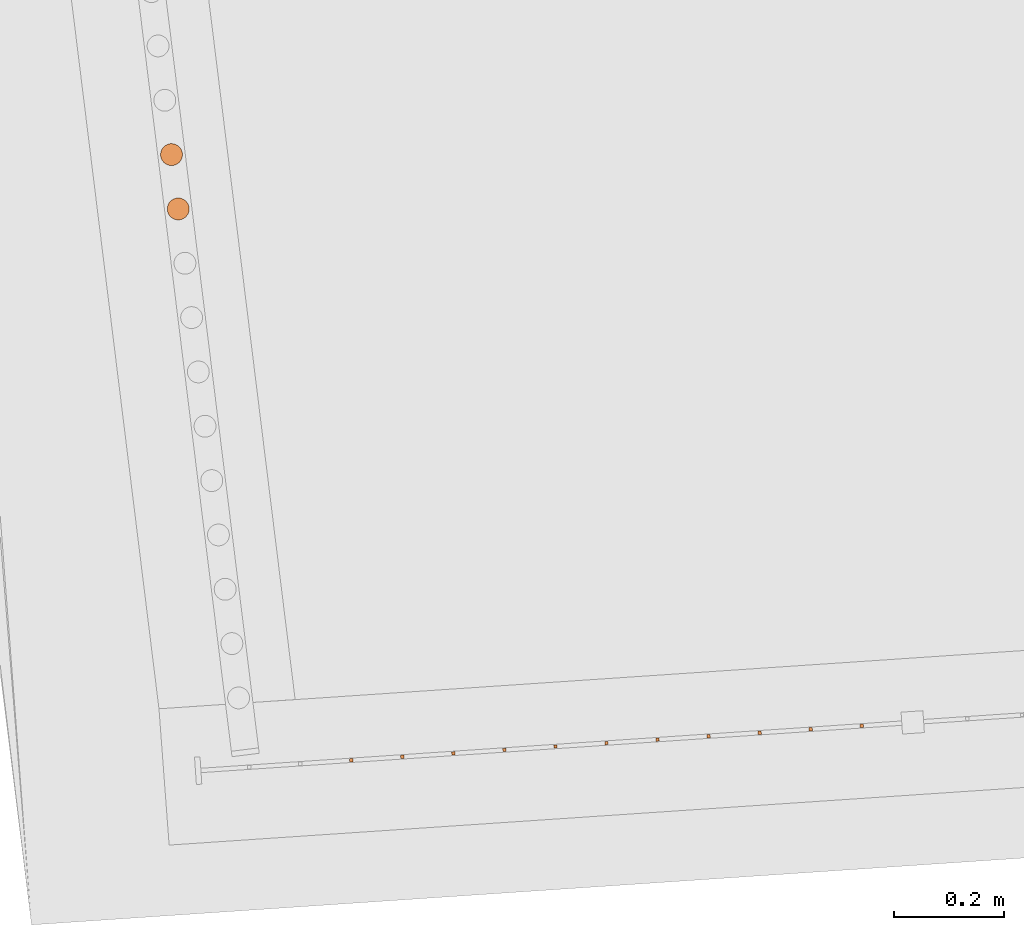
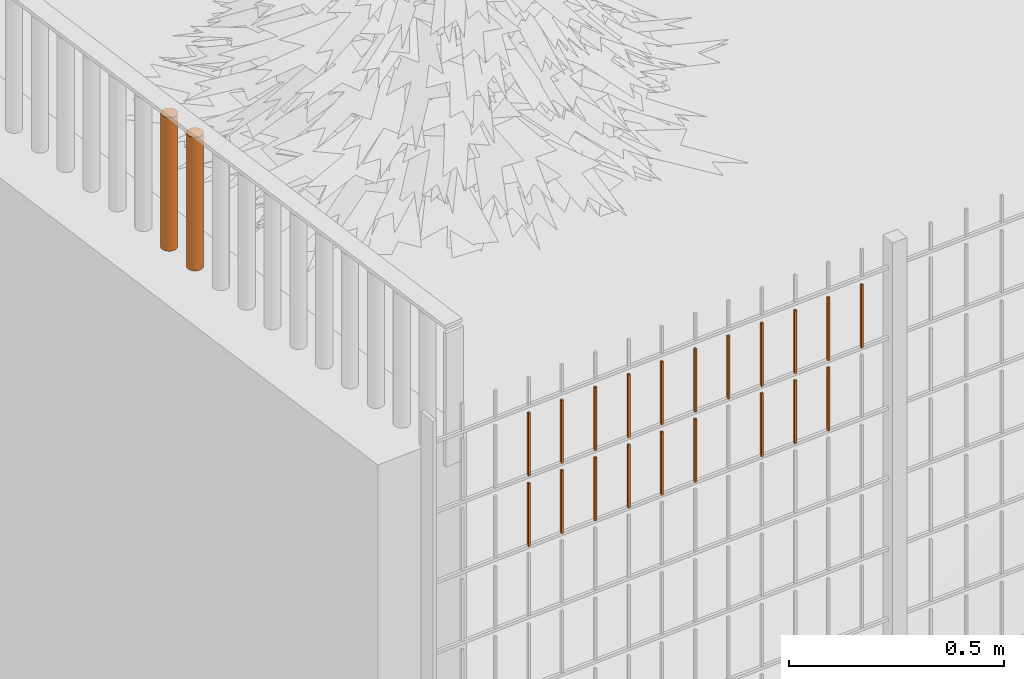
# One storey, part 56 of 1809: 22 proxies, 2 elements without a shape of their own.
"""IFC2X3 building model written with IfcOpenShell, lengths in millimetres."""

from ifc_helpers import new_model, entity, si_unit, converted_unit, derived_unit, money_unit, direction, frame, origin_with_axes, place, context, subcontext, project, spatial, faceted_brep, source, transform, mapped, material, type_object, element, aggregate, save


model = new_model("IFC2X3")

# Units and contexts
model_context = context("Model", 3, precision=0.01, world=origin_with_axes(), true_north=direction((0.0, 1.0)))
body_context = subcontext(model_context, "Body", "Model", "MODEL_VIEW")
ifc_project = project(units=[si_unit("LENGTHUNIT", "METRE", prefix="MILLI"), si_unit("AREAUNIT", "SQUARE_METRE"), si_unit("VOLUMEUNIT", "CUBIC_METRE"), converted_unit("PLANEANGLEUNIT", "DEGREE", entity("IfcPlaneAngleMeasure", 0.0174532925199), si_unit("PLANEANGLEUNIT", "RADIAN"), dimensions=[0, 0, 0, 0, 0, 0, 0]), si_unit("SOLIDANGLEUNIT", "STERADIAN"), money_unit("EUR"), converted_unit("TIMEUNIT", "Year", entity("IfcTimeMeasure", 31556926.0), si_unit("TIMEUNIT", "SECOND"), dimensions=[0, 0, 1, 0, 0, 0, 0]), si_unit("MASSUNIT", "GRAM", prefix="KILO"), si_unit("THERMODYNAMICTEMPERATUREUNIT", "DEGREE_CELSIUS"), si_unit("LUMINOUSINTENSITYUNIT", "LUMEN"), si_unit("ENERGYUNIT", "JOULE", prefix="MEGA"), derived_unit("THERMALCONDUCTANCEUNIT", [(si_unit("POWERUNIT", "WATT"), 1), (si_unit("LENGTHUNIT", "METRE"), -1), (si_unit("THERMODYNAMICTEMPERATUREUNIT", "KELVIN"), -1)]), derived_unit("SPECIFICHEATCAPACITYUNIT", [(si_unit("ENERGYUNIT", "JOULE"), 1), (si_unit("MASSUNIT", "GRAM", prefix="KILO"), -1), (si_unit("THERMODYNAMICTEMPERATUREUNIT", "KELVIN"), -1)]), derived_unit("MASSDENSITYUNIT", [(si_unit("MASSUNIT", "GRAM", prefix="KILO"), 1), (si_unit("VOLUMEUNIT", "CUBIC_METRE"), -1)])], contexts=[model_context])

# Site, building, storey
site_placement = place(None, origin_with_axes())
site = spatial("IfcSite", under=ifc_project, at=site_placement, Name="Politse- ja Piirivalveameti ning Päästeameti ühishoone", CompositionType="ELEMENT")
building_placement = place(site_placement, origin_with_axes())
building = spatial("IfcBuilding", under=site, at=building_placement, Name="Politse- ja Piirivalveameti ning Päästeameti ühishoone", CompositionType="ELEMENT")
storey_placement = place(building_placement, origin_with_axes())
storey = spatial("IfcBuildingStorey", under=building, at=storey_placement, Name="Esimene korrus", CompositionType="ELEMENT", Elevation=0.0)

# Proxies
building_element_proxy_type_1 = type_object("IfcBuildingElementProxyType", Name="Railing Type", PredefinedType="NOTDEFINED")
proxy_1_placement = place(storey_placement, frame((89252.001212, -29183.4766571, 203.661247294), z_axis=(0.0, 0.0, 1.0), x_axis=(1.0, 0.0, 0.0)))
proxy_1 = element("IfcBuildingElementProxy", 1, at=proxy_1_placement, inside=storey, type_object=building_element_proxy_type_1, Name="PIIRDEAED")
ifc_material_1 = material(Name="ET-03_Raud")
building_element_proxy_type_2 = type_object("IfcBuildingElementProxyType", Name="IfcBuildingElementProxy", PredefinedType="NOTDEFINED")
shared_shape_1 = source(origin_with_axes(), body_context, "Body", "Brep", [
    faceted_brep([(3.0, 3.0, -0.000752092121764), (-3.0, 3.0, -0.000752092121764), (-3.0, 3.0, 179.99926046), (3.0, 3.0, 179.99926046), (3.0, -3.0, 0.000752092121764), (-3.0, -3.0, 0.000752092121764), (-3.0, -3.0, 180.000764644), (3.0, -3.0, 180.000764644)], [[[0, 1, 2, 3]], [[0, 4, 5, 1]], [[1, 5, 6, 2]], [[3, 2, 6, 7]], [[4, 0, 3, 7]], [[5, 4, 7, 6]]]),
])
proxy_2_placement = place(proxy_1_placement, frame((-108014.752026, -24593.763628, 1800.09366723), z_axis=(0.0, 0.0, 1.0), x_axis=(1.0, 0.0, 0.0)))
proxy_2 = element("IfcBuildingElementProxy", 2, at=proxy_2_placement, type_object=building_element_proxy_type_2, material=ifc_material_1, Name="BALUSTER - 001", context=body_context, shape_type="MappedRepresentation", body=[
    mapped(shared_shape_1, transform((0.0, 0.0, 0.0), x_axis=(-0.0673926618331, 0.997726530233, 0.0), y_axis=(-0.997726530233, -0.0673926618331, 0.0), z_axis=(0.0, 0.0, 1.0))),
])
shared_shape_2 = source(origin_with_axes(), body_context, "Body", "Brep", [
    faceted_brep([(3.0, 3.0, -0.000752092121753), (-3.0, 3.0, -0.000752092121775), (-3.0, 3.0, 179.99926046), (3.0, 3.0, 179.99926046), (3.0, -3.0, 0.000752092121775), (-3.0, -3.0, 0.000752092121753), (-3.0, -3.0, 180.000764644), (3.0, -3.0, 180.000764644)], [[[0, 1, 2, 3]], [[0, 4, 5, 1]], [[1, 5, 6, 2]], [[3, 2, 6, 7]], [[4, 0, 3, 7]], [[5, 4, 7, 6]]]),
])
proxy_3_placement = place(proxy_1_placement, frame((-107641.924811, -24568.5805566, 1600.18734701), z_axis=(0.0, 0.0, 1.0), x_axis=(1.0, 0.0, 0.0)))
proxy_3 = element("IfcBuildingElementProxy", 3, at=proxy_3_placement, type_object=building_element_proxy_type_2, material=ifc_material_1, Name="BALUSTER - 001", context=body_context, shape_type="MappedRepresentation", body=[
    mapped(shared_shape_2, transform((0.0, 0.0, 0.0), x_axis=(-0.0673926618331, 0.997726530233, 0.0), y_axis=(-0.997726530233, -0.0673926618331, 0.0), z_axis=(0.0, 0.0, 1.0))),
])
shared_shape_3 = source(origin_with_axes(), body_context, "Body", "Brep", [
    faceted_brep([(3.0, 3.0, -0.000752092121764), (-3.0, 3.0, -0.000752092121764), (-3.0, 3.0, 179.99926046), (3.0, 3.0, 179.99926046), (3.0, -3.0, 0.000752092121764), (-3.0, -3.0, 0.000752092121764), (-3.0, -3.0, 180.000764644), (3.0, -3.0, 180.000764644)], [[[0, 1, 2, 3]], [[0, 4, 5, 1]], [[1, 5, 6, 2]], [[3, 2, 6, 7]], [[4, 0, 3, 7]], [[5, 4, 7, 6]]]),
])
proxy_4_placement = place(proxy_1_placement, frame((-108014.752026, -24593.763628, 1600.09366723), z_axis=(0.0, 0.0, 1.0), x_axis=(1.0, 0.0, 0.0)))
proxy_4 = element("IfcBuildingElementProxy", 4, at=proxy_4_placement, type_object=building_element_proxy_type_2, material=ifc_material_1, Name="BALUSTER - 001", context=body_context, shape_type="MappedRepresentation", body=[
    mapped(shared_shape_3, transform((0.0, 0.0, 0.0), x_axis=(-0.0673926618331, 0.997726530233, 0.0), y_axis=(-0.997726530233, -0.0673926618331, 0.0), z_axis=(0.0, 0.0, 1.0))),
])
shared_shape_4 = source(origin_with_axes(), body_context, "Body", "Brep", [
    faceted_brep([(3.0, 3.0, -0.000752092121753), (-3.0, 3.0, -0.000752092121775), (-3.0, 3.0, 179.99926046), (3.0, 3.0, 179.99926046), (3.0, -3.0, 0.000752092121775), (-3.0, -3.0, 0.000752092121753), (-3.0, -3.0, 180.000764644), (3.0, -3.0, 180.000764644)], [[[0, 1, 2, 3]], [[0, 4, 5, 1]], [[1, 5, 6, 2]], [[3, 2, 6, 7]], [[4, 0, 3, 7]], [[5, 4, 7, 6]]]),
])
proxy_5_placement = place(proxy_1_placement, frame((-107641.924811, -24568.5805566, 1800.18734701), z_axis=(0.0, 0.0, 1.0), x_axis=(1.0, 0.0, 0.0)))
proxy_5 = element("IfcBuildingElementProxy", 5, at=proxy_5_placement, type_object=building_element_proxy_type_2, material=ifc_material_1, Name="BALUSTER - 001", context=body_context, shape_type="MappedRepresentation", body=[
    mapped(shared_shape_4, transform((0.0, 0.0, 0.0), x_axis=(-0.0673926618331, 0.997726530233, 0.0), y_axis=(-0.997726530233, -0.0673926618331, 0.0), z_axis=(0.0, 0.0, 1.0))),
])
shared_shape_5 = source(origin_with_axes(), body_context, "Body", "Brep", [
    faceted_brep([(3.0, 3.0, -0.000752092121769), (-3.0, 3.0, -0.000752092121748), (-3.0, 3.0, 179.99926046), (3.0, 3.0, 179.99926046), (3.0, -3.0, 0.000752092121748), (-3.0, -3.0, 0.000752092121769), (-3.0, -3.0, 180.000764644), (3.0, -3.0, 180.000764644)], [[[0, 1, 2, 3]], [[0, 4, 5, 1]], [[1, 5, 6, 2]], [[3, 2, 6, 7]], [[4, 0, 3, 7]], [[5, 4, 7, 6]]]),
])
proxy_6_placement = place(proxy_1_placement, frame((-107362.3044, -24549.6932531, 1800.25760685), z_axis=(0.0, 0.0, 1.0), x_axis=(1.0, 0.0, 0.0)))
proxy_6 = element("IfcBuildingElementProxy", 6, at=proxy_6_placement, type_object=building_element_proxy_type_2, material=ifc_material_1, Name="BALUSTER - 001", context=body_context, shape_type="MappedRepresentation", body=[
    mapped(shared_shape_5, transform((0.0, 0.0, 0.0), x_axis=(-0.0673926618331, 0.997726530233, 0.0), y_axis=(-0.997726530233, -0.0673926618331, 0.0), z_axis=(0.0, 0.0, 1.0))),
])
shared_shape_6 = source(origin_with_axes(), body_context, "Body", "Brep", [
    faceted_brep([(3.0, 3.0, -0.000752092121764), (-3.0, 3.0, -0.000752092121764), (-3.0, 3.0, 179.99926046), (3.0, 3.0, 179.99926046), (3.0, -3.0, 0.000752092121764), (-3.0, -3.0, 0.000752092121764), (-3.0, -3.0, 180.000764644), (3.0, -3.0, 180.000764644)], [[[0, 1, 2, 3]], [[0, 4, 5, 1]], [[1, 5, 6, 2]], [[3, 2, 6, 7]], [[4, 0, 3, 7]], [[5, 4, 7, 6]]]),
])
proxy_7_placement = place(proxy_1_placement, frame((-107269.097597, -24543.3974853, 1800.28102679), z_axis=(0.0, 0.0, 1.0), x_axis=(1.0, 0.0, 0.0)))
proxy_7 = element("IfcBuildingElementProxy", 7, at=proxy_7_placement, type_object=building_element_proxy_type_2, material=ifc_material_1, Name="BALUSTER - 001", context=body_context, shape_type="MappedRepresentation", body=[
    mapped(shared_shape_6, transform((0.0, 0.0, 0.0), x_axis=(-0.0673926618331, 0.997726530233, 0.0), y_axis=(-0.997726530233, -0.0673926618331, 0.0), z_axis=(0.0, 0.0, 1.0))),
])
shared_shape_7 = source(origin_with_axes(), body_context, "Body", "Brep", [
    faceted_brep([(3.0, 3.0, -0.000752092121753), (-3.0, 3.0, -0.000752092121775), (-3.0, 3.0, 179.99926046), (3.0, 3.0, 179.99926046), (3.0, -3.0, 0.000752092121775), (-3.0, -3.0, 0.000752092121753), (-3.0, -3.0, 180.000764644), (3.0, -3.0, 180.000764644)], [[[0, 1, 2, 3]], [[0, 4, 5, 1]], [[1, 5, 6, 2]], [[3, 2, 6, 7]], [[4, 0, 3, 7]], [[5, 4, 7, 6]]]),
])
proxy_8_placement = place(proxy_1_placement, frame((-107828.338419, -24581.1720923, 1800.14050712), z_axis=(0.0, 0.0, 1.0), x_axis=(1.0, 0.0, 0.0)))
proxy_8 = element("IfcBuildingElementProxy", 8, at=proxy_8_placement, type_object=building_element_proxy_type_2, material=ifc_material_1, Name="BALUSTER - 001", context=body_context, shape_type="MappedRepresentation", body=[
    mapped(shared_shape_7, transform((0.0, 0.0, 0.0), x_axis=(-0.0673926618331, 0.997726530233, 0.0), y_axis=(-0.997726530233, -0.0673926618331, 0.0), z_axis=(0.0, 0.0, 1.0))),
])
shared_shape_8 = source(origin_with_axes(), body_context, "Body", "Brep", [
    faceted_brep([(3.0, 3.0, -0.000752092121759), (-3.0, 3.0, -0.000752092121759), (-3.0, 3.0, 179.99926046), (3.0, 3.0, 179.99926046), (3.0, -3.0, 0.000752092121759), (-3.0, -3.0, 0.000752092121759), (-3.0, -3.0, 180.000764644), (3.0, -3.0, 180.000764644)], [[[0, 1, 2, 3]], [[0, 4, 5, 1]], [[1, 5, 6, 2]], [[3, 2, 6, 7]], [[4, 0, 3, 7]], [[5, 4, 7, 6]]]),
])
proxy_9_placement = place(proxy_1_placement, frame((-107735.131615, -24574.8763245, 1800.16392707), z_axis=(0.0, 0.0, 1.0), x_axis=(1.0, 0.0, 0.0)))
proxy_9 = element("IfcBuildingElementProxy", 9, at=proxy_9_placement, type_object=building_element_proxy_type_2, material=ifc_material_1, Name="BALUSTER - 001", context=body_context, shape_type="MappedRepresentation", body=[
    mapped(shared_shape_8, transform((0.0, 0.0, 0.0), x_axis=(-0.0673926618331, 0.997726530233, 0.0), y_axis=(-0.997726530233, -0.0673926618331, 0.0), z_axis=(0.0, 0.0, 1.0))),
])
shared_shape_9 = source(origin_with_axes(), body_context, "Body", "Brep", [
    faceted_brep([(3.0, 3.0, -0.000752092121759), (-3.0, 3.0, -0.000752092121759), (-3.0, 3.0, 179.99926046), (3.0, 3.0, 179.99926046), (3.0, -3.0, 0.000752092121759), (-3.0, -3.0, 0.000752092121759), (-3.0, -3.0, 180.000764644), (3.0, -3.0, 180.000764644)], [[[0, 1, 2, 3]], [[0, 4, 5, 1]], [[1, 5, 6, 2]], [[3, 2, 6, 7]], [[4, 0, 3, 7]], [[5, 4, 7, 6]]]),
])
proxy_10_placement = place(proxy_1_placement, frame((-108107.95883, -24600.0593958, 1800.07024728), z_axis=(0.0, 0.0, 1.0), x_axis=(1.0, 0.0, 0.0)))
proxy_10 = element("IfcBuildingElementProxy", 10, at=proxy_10_placement, type_object=building_element_proxy_type_2, material=ifc_material_1, Name="BALUSTER - 001", context=body_context, shape_type="MappedRepresentation", body=[
    mapped(shared_shape_9, transform((0.0, 0.0, 0.0), x_axis=(-0.0673926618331, 0.997726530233, 0.0), y_axis=(-0.997726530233, -0.0673926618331, 0.0), z_axis=(0.0, 0.0, 1.0))),
])
shared_shape_10 = source(origin_with_axes(), body_context, "Body", "Brep", [
    faceted_brep([(3.0, 3.0, -0.000752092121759), (-3.0, 3.0, -0.000752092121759), (-3.0, 3.0, 179.99926046), (3.0, 3.0, 179.99926046), (3.0, -3.0, 0.000752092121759), (-3.0, -3.0, 0.000752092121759), (-3.0, -3.0, 180.000764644), (3.0, -3.0, 180.000764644)], [[[0, 1, 2, 3]], [[0, 4, 5, 1]], [[1, 5, 6, 2]], [[3, 2, 6, 7]], [[4, 0, 3, 7]], [[5, 4, 7, 6]]]),
])
proxy_11_placement = place(proxy_1_placement, frame((-107455.511204, -24555.989021, 1800.2341869), z_axis=(0.0, 0.0, 1.0), x_axis=(1.0, 0.0, 0.0)))
proxy_11 = element("IfcBuildingElementProxy", 11, at=proxy_11_placement, type_object=building_element_proxy_type_2, material=ifc_material_1, Name="BALUSTER - 001", context=body_context, shape_type="MappedRepresentation", body=[
    mapped(shared_shape_10, transform((0.0, 0.0, 0.0), x_axis=(-0.0673926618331, 0.997726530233, 0.0), y_axis=(-0.997726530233, -0.0673926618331, 0.0), z_axis=(0.0, 0.0, 1.0))),
])
shared_shape_11 = source(origin_with_axes(), body_context, "Body", "Brep", [
    faceted_brep([(3.0, 3.0, -0.000752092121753), (-3.0, 3.0, -0.000752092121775), (-3.0, 3.0, 179.99926046), (3.0, 3.0, 179.99926046), (3.0, -3.0, 0.000752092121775), (-3.0, -3.0, 0.000752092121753), (-3.0, -3.0, 180.000764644), (3.0, -3.0, 180.000764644)], [[[0, 1, 2, 3]], [[0, 4, 5, 1]], [[1, 5, 6, 2]], [[3, 2, 6, 7]], [[4, 0, 3, 7]], [[5, 4, 7, 6]]]),
])
proxy_12_placement = place(proxy_1_placement, frame((-107921.545222, -24587.4678602, 1800.11708718), z_axis=(0.0, 0.0, 1.0), x_axis=(1.0, 0.0, 0.0)))
proxy_12 = element("IfcBuildingElementProxy", 12, at=proxy_12_placement, type_object=building_element_proxy_type_2, material=ifc_material_1, Name="BALUSTER - 001", context=body_context, shape_type="MappedRepresentation", body=[
    mapped(shared_shape_11, transform((0.0, 0.0, 0.0), x_axis=(-0.0673926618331, 0.997726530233, 0.0), y_axis=(-0.997726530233, -0.0673926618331, 0.0), z_axis=(0.0, 0.0, 1.0))),
])
shared_shape_12 = source(origin_with_axes(), body_context, "Body", "Brep", [
    faceted_brep([(3.0, 3.0, -0.000752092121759), (-3.0, 3.0, -0.000752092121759), (-3.0, 3.0, 179.99926046), (3.0, 3.0, 179.99926046), (3.0, -3.0, 0.000752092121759), (-3.0, -3.0, 0.000752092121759), (-3.0, -3.0, 180.000764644), (3.0, -3.0, 180.000764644)], [[[0, 1, 2, 3]], [[0, 4, 5, 1]], [[1, 5, 6, 2]], [[3, 2, 6, 7]], [[4, 0, 3, 7]], [[5, 4, 7, 6]]]),
])
proxy_13_placement = place(proxy_1_placement, frame((-108107.95883, -24600.0593958, 1600.07024728), z_axis=(0.0, 0.0, 1.0), x_axis=(1.0, 0.0, 0.0)))
proxy_13 = element("IfcBuildingElementProxy", 13, at=proxy_13_placement, type_object=building_element_proxy_type_2, material=ifc_material_1, Name="BALUSTER - 001", context=body_context, shape_type="MappedRepresentation", body=[
    mapped(shared_shape_12, transform((0.0, 0.0, 0.0), x_axis=(-0.0673926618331, 0.997726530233, 0.0), y_axis=(-0.997726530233, -0.0673926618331, 0.0), z_axis=(0.0, 0.0, 1.0))),
])
shared_shape_13 = source(origin_with_axes(), body_context, "Body", "Brep", [
    faceted_brep([(3.0, 3.0, -0.000752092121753), (-3.0, 3.0, -0.000752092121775), (-3.0, 3.0, 179.99926046), (3.0, 3.0, 179.99926046), (3.0, -3.0, 0.000752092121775), (-3.0, -3.0, 0.000752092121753), (-3.0, -3.0, 180.000764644), (3.0, -3.0, 180.000764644)], [[[0, 1, 2, 3]], [[0, 4, 5, 1]], [[1, 5, 6, 2]], [[3, 2, 6, 7]], [[4, 0, 3, 7]], [[5, 4, 7, 6]]]),
])
proxy_14_placement = place(proxy_1_placement, frame((-107175.890793, -24537.1017174, 1800.30444674), z_axis=(0.0, 0.0, 1.0), x_axis=(1.0, 0.0, 0.0)))
proxy_14 = element("IfcBuildingElementProxy", 14, at=proxy_14_placement, type_object=building_element_proxy_type_2, material=ifc_material_1, Name="BALUSTER - 001", context=body_context, shape_type="MappedRepresentation", body=[
    mapped(shared_shape_13, transform((0.0, 0.0, 0.0), x_axis=(-0.0673926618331, 0.997726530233, 0.0), y_axis=(-0.997726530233, -0.0673926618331, 0.0), z_axis=(0.0, 0.0, 1.0))),
])
shared_shape_14 = source(origin_with_axes(), body_context, "Body", "Brep", [
    faceted_brep([(3.0, 3.0, -0.000752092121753), (-3.0, 3.0, -0.000752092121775), (-3.0, 3.0, 179.99926046), (3.0, 3.0, 179.99926046), (3.0, -3.0, 0.000752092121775), (-3.0, -3.0, 0.000752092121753), (-3.0, -3.0, 180.000764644), (3.0, -3.0, 180.000764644)], [[[0, 1, 2, 3]], [[0, 4, 5, 1]], [[1, 5, 6, 2]], [[3, 2, 6, 7]], [[4, 0, 3, 7]], [[5, 4, 7, 6]]]),
])
proxy_15_placement = place(proxy_1_placement, frame((-107548.718008, -24562.2847888, 1800.21076696), z_axis=(0.0, 0.0, 1.0), x_axis=(1.0, 0.0, 0.0)))
proxy_15 = element("IfcBuildingElementProxy", 15, at=proxy_15_placement, type_object=building_element_proxy_type_2, material=ifc_material_1, Name="BALUSTER - 001", context=body_context, shape_type="MappedRepresentation", body=[
    mapped(shared_shape_14, transform((0.0, 0.0, 0.0), x_axis=(-0.0673926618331, 0.997726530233, 0.0), y_axis=(-0.997726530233, -0.0673926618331, 0.0), z_axis=(0.0, 0.0, 1.0))),
])
shared_shape_15 = source(origin_with_axes(), body_context, "Body", "Brep", [
    faceted_brep([(3.0, 3.0, -0.000752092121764), (-3.0, 3.0, -0.000752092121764), (-3.0, 3.0, 179.99926046), (3.0, 3.0, 179.99926046), (3.0, -3.0, 0.000752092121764), (-3.0, -3.0, 0.000752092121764), (-3.0, -3.0, 180.000764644), (3.0, -3.0, 180.000764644)], [[[0, 1, 2, 3]], [[0, 4, 5, 1]], [[1, 5, 6, 2]], [[3, 2, 6, 7]], [[4, 0, 3, 7]], [[5, 4, 7, 6]]]),
])
proxy_16_placement = place(proxy_1_placement, frame((-107269.097597, -24543.3974853, 1600.28102679), z_axis=(0.0, 0.0, 1.0), x_axis=(1.0, 0.0, 0.0)))
proxy_16 = element("IfcBuildingElementProxy", 16, at=proxy_16_placement, type_object=building_element_proxy_type_2, material=ifc_material_1, Name="BALUSTER - 001", context=body_context, shape_type="MappedRepresentation", body=[
    mapped(shared_shape_15, transform((0.0, 0.0, 0.0), x_axis=(-0.0673926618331, 0.997726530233, 0.0), y_axis=(-0.997726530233, -0.0673926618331, 0.0), z_axis=(0.0, 0.0, 1.0))),
])
shared_shape_16 = source(origin_with_axes(), body_context, "Body", "Brep", [
    faceted_brep([(3.0, 3.0, -0.000752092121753), (-3.0, 3.0, -0.000752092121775), (-3.0, 3.0, 179.99926046), (3.0, 3.0, 179.99926046), (3.0, -3.0, 0.000752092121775), (-3.0, -3.0, 0.000752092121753), (-3.0, -3.0, 180.000764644), (3.0, -3.0, 180.000764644)], [[[0, 1, 2, 3]], [[0, 4, 5, 1]], [[1, 5, 6, 2]], [[3, 2, 6, 7]], [[4, 0, 3, 7]], [[5, 4, 7, 6]]]),
])
proxy_17_placement = place(proxy_1_placement, frame((-107828.338419, -24581.1720923, 1600.14050712), z_axis=(0.0, 0.0, 1.0), x_axis=(1.0, 0.0, 0.0)))
proxy_17 = element("IfcBuildingElementProxy", 17, at=proxy_17_placement, type_object=building_element_proxy_type_2, material=ifc_material_1, Name="BALUSTER - 001", context=body_context, shape_type="MappedRepresentation", body=[
    mapped(shared_shape_16, transform((0.0, 0.0, 0.0), x_axis=(-0.0673926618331, 0.997726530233, 0.0), y_axis=(-0.997726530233, -0.0673926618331, 0.0), z_axis=(0.0, 0.0, 1.0))),
])
shared_shape_17 = source(origin_with_axes(), body_context, "Body", "Brep", [
    faceted_brep([(3.0, 3.0, -0.000752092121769), (-3.0, 3.0, -0.000752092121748), (-3.0, 3.0, 179.99926046), (3.0, 3.0, 179.99926046), (3.0, -3.0, 0.000752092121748), (-3.0, -3.0, 0.000752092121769), (-3.0, -3.0, 180.000764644), (3.0, -3.0, 180.000764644)], [[[0, 1, 2, 3]], [[0, 4, 5, 1]], [[1, 5, 6, 2]], [[3, 2, 6, 7]], [[4, 0, 3, 7]], [[5, 4, 7, 6]]]),
])
proxy_18_placement = place(proxy_1_placement, frame((-107362.3044, -24549.6932531, 1600.25760685), z_axis=(0.0, 0.0, 1.0), x_axis=(1.0, 0.0, 0.0)))
proxy_18 = element("IfcBuildingElementProxy", 18, at=proxy_18_placement, type_object=building_element_proxy_type_2, material=ifc_material_1, Name="BALUSTER - 001", context=body_context, shape_type="MappedRepresentation", body=[
    mapped(shared_shape_17, transform((0.0, 0.0, 0.0), x_axis=(-0.0673926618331, 0.997726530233, 0.0), y_axis=(-0.997726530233, -0.0673926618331, 0.0), z_axis=(0.0, 0.0, 1.0))),
])
shared_shape_18 = source(origin_with_axes(), body_context, "Body", "Brep", [
    faceted_brep([(3.0, 3.0, -0.000752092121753), (-3.0, 3.0, -0.000752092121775), (-3.0, 3.0, 179.99926046), (3.0, 3.0, 179.99926046), (3.0, -3.0, 0.000752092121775), (-3.0, -3.0, 0.000752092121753), (-3.0, -3.0, 180.000764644), (3.0, -3.0, 180.000764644)], [[[0, 1, 2, 3]], [[0, 4, 5, 1]], [[1, 5, 6, 2]], [[3, 2, 6, 7]], [[4, 0, 3, 7]], [[5, 4, 7, 6]]]),
])
proxy_19_placement = place(proxy_1_placement, frame((-107921.545222, -24587.4678602, 1600.11708718), z_axis=(0.0, 0.0, 1.0), x_axis=(1.0, 0.0, 0.0)))
proxy_19 = element("IfcBuildingElementProxy", 19, at=proxy_19_placement, type_object=building_element_proxy_type_2, material=ifc_material_1, Name="BALUSTER - 001", context=body_context, shape_type="MappedRepresentation", body=[
    mapped(shared_shape_18, transform((0.0, 0.0, 0.0), x_axis=(-0.0673926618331, 0.997726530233, 0.0), y_axis=(-0.997726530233, -0.0673926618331, 0.0), z_axis=(0.0, 0.0, 1.0))),
])
shared_shape_19 = source(origin_with_axes(), body_context, "Body", "Brep", [
    faceted_brep([(3.0, 3.0, -0.000752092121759), (-3.0, 3.0, -0.000752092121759), (-3.0, 3.0, 179.99926046), (3.0, 3.0, 179.99926046), (3.0, -3.0, 0.000752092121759), (-3.0, -3.0, 0.000752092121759), (-3.0, -3.0, 180.000764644), (3.0, -3.0, 180.000764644)], [[[0, 1, 2, 3]], [[0, 4, 5, 1]], [[1, 5, 6, 2]], [[3, 2, 6, 7]], [[4, 0, 3, 7]], [[5, 4, 7, 6]]]),
])
proxy_20_placement = place(proxy_1_placement, frame((-107455.511204, -24555.989021, 1600.2341869), z_axis=(0.0, 0.0, 1.0), x_axis=(1.0, 0.0, 0.0)))
proxy_20 = element("IfcBuildingElementProxy", 20, at=proxy_20_placement, type_object=building_element_proxy_type_2, material=ifc_material_1, Name="BALUSTER - 001", context=body_context, shape_type="MappedRepresentation", body=[
    mapped(shared_shape_19, transform((0.0, 0.0, 0.0), x_axis=(-0.0673926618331, 0.997726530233, 0.0), y_axis=(-0.997726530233, -0.0673926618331, 0.0), z_axis=(0.0, 0.0, 1.0))),
])
proxy_21_placement = place(proxy_1_placement, frame((-107735.131615, -24574.8763245, 1600.16392707), z_axis=(0.0, 0.0, 1.0), x_axis=(1.0, 0.0, 0.0)))
proxy_21 = element("IfcBuildingElementProxy", 21, at=proxy_21_placement, type_object=building_element_proxy_type_2, material=ifc_material_1, Name="BALUSTER - 001", context=body_context, shape_type="MappedRepresentation", body=[
    mapped(shared_shape_19, transform((0.0, 0.0, 0.0), x_axis=(-0.0673926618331, 0.997726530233, 0.0), y_axis=(-0.997726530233, -0.0673926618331, 0.0), z_axis=(0.0, 0.0, 1.0))),
])
aggregate(proxy_1, [proxy_16, proxy_18, proxy_20, proxy_3, proxy_21, proxy_17, proxy_19, proxy_4, proxy_13, proxy_14, proxy_7, proxy_6, proxy_11, proxy_15, proxy_5, proxy_9, proxy_8, proxy_12, proxy_2, proxy_10])

proxy_22_placement = place(storey_placement, frame((-18956.5522504, -53688.4757966, 2100.0), z_axis=(0.0, 0.0, 1.0), x_axis=(1.0, 0.0, 0.0)))
proxy_22 = element("IfcBuildingElementProxy", 22, at=proxy_22_placement, inside=storey, type_object=building_element_proxy_type_1, Name="PIIRDEAED")
ifc_material_2 = material(Name="ET-06_Teras - Konstruktsioon")
shared_shape_20 = source(origin_with_axes(), body_context, "Body", "Brep", [
    faceted_brep([(0.0, -20.0, 0.0), (3.47296355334, -19.6961550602, 0.0), (3.47296355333, -19.6961550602, 380.000012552), (0.0, -20.0, 380.000012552), (-3.47296355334, -19.6961550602, 0.0), (-6.84040286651, -18.7938524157, 0.0), (-10.0, -17.3205080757, 0.0), (-12.8557521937, -15.3208888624, 0.0), (-15.3208888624, -12.8557521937, 0.0), (-17.3205080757, -10.0, 0.0), (-18.7938524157, -6.84040286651, 0.0), (-19.6961550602, -3.47296355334, 0.0), (-20.0, 0.0, 0.0), (-19.6961550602, 3.47296355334, 0.0), (-18.7938524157, 6.84040286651, 0.0), (-17.3205080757, 10.0, 0.0), (-15.3208888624, 12.8557521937, 0.0), (-12.8557521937, 15.3208888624, 0.0), (-10.0, 17.3205080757, 0.0), (-6.84040286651, 18.7938524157, 0.0), (-3.47296355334, 19.6961550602, 0.0), (0.0, 20.0, 0.0), (3.47296355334, 19.6961550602, 0.0), (6.84040286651, 18.7938524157, 0.0), (10.0, 17.3205080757, 0.0), (12.8557521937, 15.3208888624, 0.0), (15.3208888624, 12.8557521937, 0.0), (17.3205080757, 10.0, 0.0), (18.7938524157, 6.84040286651, 0.0), (19.6961550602, 3.47296355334, 0.0), (20.0, 0.0, 0.0), (19.6961550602, -3.47296355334, 0.0), (18.7938524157, -6.84040286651, 0.0), (17.3205080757, -10.0, 0.0), (15.3208888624, -12.8557521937, 0.0), (12.8557521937, -15.3208888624, 0.0), (10.0, -17.3205080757, 0.0), (6.84040286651, -18.7938524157, 0.0), (6.84040286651, -18.7938524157, 380.000012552), (9.99999999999, -17.3205080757, 380.000012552), (12.8557521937, -15.3208888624, 380.000012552), (15.3208888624, -12.8557521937, 380.000012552), (17.3205080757, -10.0, 380.000012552), (18.7938524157, -6.84040286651, 380.000012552), (19.6961550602, -3.47296355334, 380.000012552), (20.0, 0.0, 380.000012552), (19.6961550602, 3.47296355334, 380.000012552), (18.7938524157, 6.84040286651, 380.000012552), (17.3205080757, 10.0, 380.000012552), (15.3208888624, 12.8557521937, 380.000012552), (12.8557521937, 15.3208888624, 380.000012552), (9.99999999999, 17.3205080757, 380.000012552), (6.84040286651, 18.7938524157, 380.000012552), (3.47296355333, 19.6961550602, 380.000012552), (0.0, 20.0, 380.000012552), (-3.47296355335, 19.6961550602, 380.000012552), (-6.84040286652, 18.7938524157, 380.000012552), (-10.0, 17.3205080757, 380.000012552), (-12.8557521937, 15.3208888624, 380.000012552), (-15.3208888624, 12.8557521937, 380.000012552), (-17.3205080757, 10.0, 380.000012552), (-18.7938524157, 6.84040286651, 380.000012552), (-19.6961550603, 3.47296355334, 380.000012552), (-20.0, 0.0, 380.000012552), (-19.6961550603, -3.47296355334, 380.000012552), (-18.7938524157, -6.84040286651, 380.000012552), (-17.3205080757, -10.0, 380.000012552), (-15.3208888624, -12.8557521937, 380.000012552), (-12.8557521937, -15.3208888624, 380.000012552), (-10.0, -17.3205080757, 380.000012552), (-6.84040286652, -18.7938524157, 380.000012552), (-3.47296355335, -19.6961550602, 380.000012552)], [[[0, 1, 2, 3]], [[0, 4, 5, 6, 7, 8, 9, 10, 11, 12, 13, 14, 15, 16, 17, 18, 19, 20, 21, 22, 23, 24, 25, 26, 27, 28, 29, 30, 31, 32, 33, 34, 35, 36, 37, 1]], [[1, 37, 38, 2]], [[3, 2, 38, 39, 40, 41, 42, 43, 44, 45, 46, 47, 48, 49, 50, 51, 52, 53, 54, 55, 56, 57, 58, 59, 60, 61, 62, 63, 64, 65, 66, 67, 68, 69, 70, 71]], [[4, 0, 3, 71]], [[5, 4, 71, 70]], [[6, 5, 70, 69]], [[7, 6, 69, 68]], [[8, 7, 68, 67]], [[9, 8, 67, 66]], [[10, 9, 66, 65]], [[11, 10, 65, 64]], [[12, 11, 64, 63]], [[13, 12, 63, 62]], [[14, 13, 62, 61]], [[15, 14, 61, 60]], [[16, 15, 60, 59]], [[17, 16, 59, 58]], [[18, 17, 58, 57]], [[19, 18, 57, 56]], [[20, 19, 56, 55]], [[21, 20, 55, 54]], [[22, 21, 54, 53]], [[23, 22, 53, 52]], [[24, 23, 52, 51]], [[25, 24, 51, 50]], [[26, 25, 50, 49]], [[27, 26, 49, 48]], [[28, 27, 48, 47]], [[29, 28, 47, 46]], [[30, 29, 46, 45]], [[31, 30, 45, 44]], [[32, 31, 44, 43]], [[33, 32, 43, 42]], [[34, 33, 42, 41]], [[35, 34, 41, 40]], [[36, 35, 40, 39]], [[37, 36, 39, 38]]]),
])
proxy_23_placement = place(proxy_22_placement, frame((-215.499891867, 911.841959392, -1.25517001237e-05), z_axis=(0.0, 0.0, 1.0), x_axis=(1.0, 0.0, 0.0)))
proxy_23 = element("IfcBuildingElementProxy", 23, at=proxy_23_placement, type_object=building_element_proxy_type_2, material=ifc_material_2, Name="BALUSTER - 001", context=body_context, shape_type="MappedRepresentation", body=[
    mapped(shared_shape_20, transform((0.0, 0.0, 0.0), x_axis=(0.992468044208, 0.122503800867, 0.0), y_axis=(-0.122503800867, 0.992468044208, 0.0), z_axis=(0.0, 0.0, 1.0))),
])
shared_shape_21 = source(origin_with_axes(), body_context, "Body", "Brep", [
    faceted_brep([(0.0, -20.0, 0.0), (3.47296355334, -19.6961550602, 0.0), (3.47296355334, -19.6961550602, 380.000012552), (0.0, -20.0, 380.000012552), (-3.47296355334, -19.6961550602, 0.0), (-6.84040286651, -18.7938524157, 0.0), (-10.0, -17.3205080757, 0.0), (-12.8557521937, -15.3208888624, 0.0), (-15.3208888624, -12.8557521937, 0.0), (-17.3205080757, -10.0, 0.0), (-18.7938524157, -6.84040286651, 0.0), (-19.6961550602, -3.47296355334, 0.0), (-20.0, 0.0, 0.0), (-19.6961550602, 3.47296355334, 0.0), (-18.7938524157, 6.84040286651, 0.0), (-17.3205080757, 10.0, 0.0), (-15.3208888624, 12.8557521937, 0.0), (-12.8557521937, 15.3208888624, 0.0), (-10.0, 17.3205080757, 0.0), (-6.84040286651, 18.7938524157, 0.0), (-3.47296355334, 19.6961550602, 0.0), (0.0, 20.0, 0.0), (3.47296355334, 19.6961550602, 0.0), (6.84040286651, 18.7938524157, 0.0), (10.0, 17.3205080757, 0.0), (12.8557521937, 15.3208888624, 0.0), (15.3208888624, 12.8557521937, 0.0), (17.3205080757, 10.0, 0.0), (18.7938524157, 6.84040286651, 0.0), (19.6961550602, 3.47296355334, 0.0), (20.0, 0.0, 0.0), (19.6961550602, -3.47296355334, 0.0), (18.7938524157, -6.84040286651, 0.0), (17.3205080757, -10.0, 0.0), (15.3208888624, -12.8557521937, 0.0), (12.8557521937, -15.3208888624, 0.0), (10.0, -17.3205080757, 0.0), (6.84040286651, -18.7938524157, 0.0), (6.84040286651, -18.7938524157, 380.000012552), (10.0, -17.3205080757, 380.000012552), (12.8557521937, -15.3208888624, 380.000012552), (15.3208888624, -12.8557521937, 380.000012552), (17.3205080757, -10.0, 380.000012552), (18.7938524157, -6.84040286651, 380.000012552), (19.6961550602, -3.47296355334, 380.000012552), (20.0, 0.0, 380.000012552), (19.6961550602, 3.47296355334, 380.000012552), (18.7938524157, 6.84040286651, 380.000012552), (17.3205080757, 10.0, 380.000012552), (15.3208888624, 12.8557521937, 380.000012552), (12.8557521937, 15.3208888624, 380.000012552), (10.0, 17.3205080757, 380.000012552), (6.84040286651, 18.7938524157, 380.000012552), (3.47296355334, 19.6961550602, 380.000012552), (0.0, 20.0, 380.000012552), (-3.47296355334, 19.6961550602, 380.000012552), (-6.84040286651, 18.7938524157, 380.000012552), (-10.0, 17.3205080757, 380.000012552), (-12.8557521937, 15.3208888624, 380.000012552), (-15.3208888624, 12.8557521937, 380.000012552), (-17.3205080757, 10.0, 380.000012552), (-18.7938524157, 6.84040286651, 380.000012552), (-19.6961550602, 3.47296355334, 380.000012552), (-20.0, 0.0, 380.000012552), (-19.6961550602, -3.47296355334, 380.000012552), (-18.7938524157, -6.84040286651, 380.000012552), (-17.3205080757, -10.0, 380.000012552), (-15.3208888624, -12.8557521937, 380.000012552), (-12.8557521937, -15.3208888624, 380.000012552), (-10.0, -17.3205080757, 380.000012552), (-6.84040286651, -18.7938524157, 380.000012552), (-3.47296355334, -19.6961550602, 380.000012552)], [[[0, 1, 2, 3]], [[0, 4, 5, 6, 7, 8, 9, 10, 11, 12, 13, 14, 15, 16, 17, 18, 19, 20, 21, 22, 23, 24, 25, 26, 27, 28, 29, 30, 31, 32, 33, 34, 35, 36, 37, 1]], [[1, 37, 38, 2]], [[3, 2, 38, 39, 40, 41, 42, 43, 44, 45, 46, 47, 48, 49, 50, 51, 52, 53, 54, 55, 56, 57, 58, 59, 60, 61, 62, 63, 64, 65, 66, 67, 68, 69, 70, 71]], [[4, 0, 3, 71]], [[5, 4, 71, 70]], [[6, 5, 70, 69]], [[7, 6, 69, 68]], [[8, 7, 68, 67]], [[9, 8, 67, 66]], [[10, 9, 66, 65]], [[11, 10, 65, 64]], [[12, 11, 64, 63]], [[13, 12, 63, 62]], [[14, 13, 62, 61]], [[15, 14, 61, 60]], [[16, 15, 60, 59]], [[17, 16, 59, 58]], [[18, 17, 58, 57]], [[19, 18, 57, 56]], [[20, 19, 56, 55]], [[21, 20, 55, 54]], [[22, 21, 54, 53]], [[23, 22, 53, 52]], [[24, 23, 52, 51]], [[25, 24, 51, 50]], [[26, 25, 50, 49]], [[27, 26, 49, 48]], [[28, 27, 48, 47]], [[29, 28, 47, 46]], [[30, 29, 46, 45]], [[31, 30, 45, 44]], [[32, 31, 44, 43]], [[33, 32, 43, 42]], [[34, 33, 42, 41]], [[35, 34, 41, 40]], [[36, 35, 40, 39]], [[37, 36, 39, 38]]]),
])
proxy_24_placement = place(proxy_22_placement, frame((-227.74759678, 1011.06709082, -1.25517001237e-05), z_axis=(0.0, 0.0, 1.0), x_axis=(1.0, 0.0, 0.0)))
proxy_24 = element("IfcBuildingElementProxy", 24, at=proxy_24_placement, type_object=building_element_proxy_type_2, material=ifc_material_2, Name="BALUSTER - 001", context=body_context, shape_type="MappedRepresentation", body=[
    mapped(shared_shape_21, transform((0.0, 0.0, 0.0), x_axis=(0.992468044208, 0.122503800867, 0.0), y_axis=(-0.122503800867, 0.992468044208, 0.0), z_axis=(0.0, 0.0, 1.0))),
])
aggregate(proxy_22, [proxy_23, proxy_24])

save(model, "model.ifc")
